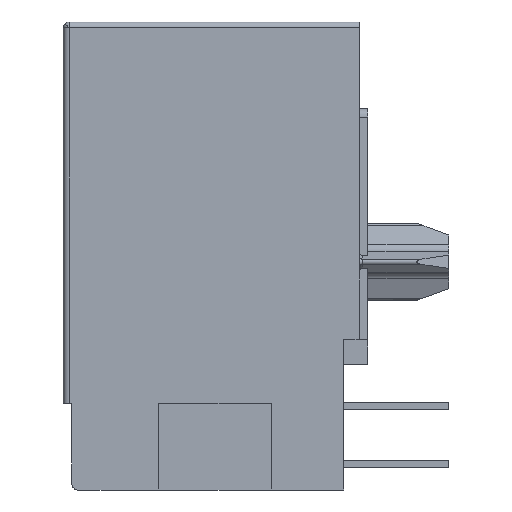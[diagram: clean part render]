
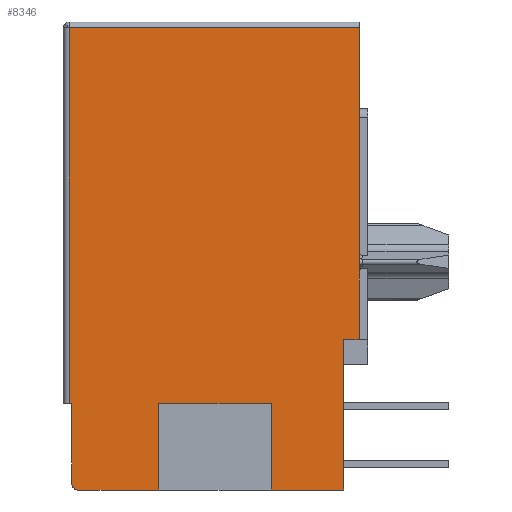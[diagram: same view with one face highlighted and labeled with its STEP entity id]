
A CAD part, left-side view. The second image highlights one B-rep face of the part: STEP entity #8346.
In plain terms, the highlighted planar face has unit normal (-1, 0, 0).
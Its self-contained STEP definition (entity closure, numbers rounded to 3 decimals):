
#2165 = CARTESIAN_POINT ( 'NONE',  ( -7.556, 0.381, -10.541 ) ) ;
#2597 = CARTESIAN_POINT ( 'NONE',  ( -7.556, 0.381, -13.97 ) ) ;
#2598 = DIRECTION ( 'NONE',  ( 0., 0., -1. ) ) ;
#2599 = VECTOR ( 'NONE', #2598, 1000. ) ;
#2600 = CARTESIAN_POINT ( 'NONE',  ( -7.556, 0.381, 0. ) ) ;
#2601 = LINE ( 'NONE', #2600, #2599 ) ;
#2623 = CARTESIAN_POINT ( 'NONE',  ( -7.556, 1.067, -13.97 ) ) ;
#2627 = CARTESIAN_POINT ( 'NONE',  ( -7.556, 13.005, -20.32 ) ) ;
#2628 = DIRECTION ( 'NONE',  ( 0., 0., 1. ) ) ;
#2629 = DIRECTION ( 'NONE',  ( 1., 0., 0. ) ) ;
#2630 = CARTESIAN_POINT ( 'NONE',  ( -7.556, 12.751, -20.32 ) ) ;
#2631 = AXIS2_PLACEMENT_3D ( 'NONE', #2630, #2629, #2628 ) ;
#2632 = CIRCLE ( 'NONE', #2631, 0.254 ) ;
#2634 = CARTESIAN_POINT ( 'NONE',  ( -7.556, 12.751, -20.574 ) ) ;
#2668 = CARTESIAN_POINT ( 'NONE',  ( -7.556, 0.381, -0.254 ) ) ;
#2669 = DIRECTION ( 'NONE',  ( 0., -1., 0. ) ) ;
#2670 = VECTOR ( 'NONE', #2669, 1000. ) ;
#2671 = CARTESIAN_POINT ( 'NONE',  ( -7.556, 7.036, -0.254 ) ) ;
#2675 = LINE ( 'NONE', #2671, #2670 ) ;
#2686 = CARTESIAN_POINT ( 'NONE',  ( -7.556, 4.242, -16.764 ) ) ;
#2687 = DIRECTION ( 'NONE',  ( 0., 0., 1. ) ) ;
#2688 = VECTOR ( 'NONE', #2687, 1000. ) ;
#2689 = CARTESIAN_POINT ( 'NONE',  ( -7.556, 4.242, 0. ) ) ;
#2690 = LINE ( 'NONE', #2689, #2688 ) ;
#2691 = CARTESIAN_POINT ( 'NONE',  ( -7.556, 4.242, -20.574 ) ) ;
#2700 = CARTESIAN_POINT ( 'NONE',  ( -7.556, 9.195, -20.574 ) ) ;
#2701 = DIRECTION ( 'NONE',  ( 0., 0., -1. ) ) ;
#2702 = VECTOR ( 'NONE', #2701, 1000. ) ;
#2703 = CARTESIAN_POINT ( 'NONE',  ( -7.556, 9.195, 0. ) ) ;
#2709 = LINE ( 'NONE', #2703, #2702 ) ;
#2731 = DIRECTION ( 'NONE',  ( 0., 1., 0. ) ) ;
#2732 = VECTOR ( 'NONE', #2731, 1000. ) ;
#2733 = CARTESIAN_POINT ( 'NONE',  ( -7.556, 7.036, -13.97 ) ) ;
#2734 = LINE ( 'NONE', #2733, #2732 ) ;
#2735 = CARTESIAN_POINT ( 'NONE',  ( -7.556, 9.195, -16.764 ) ) ;
#2736 = DIRECTION ( 'NONE',  ( 0., 1., 0. ) ) ;
#2737 = VECTOR ( 'NONE', #2736, 1000. ) ;
#2738 = CARTESIAN_POINT ( 'NONE',  ( -7.556, 7.036, -16.764 ) ) ;
#2742 = LINE ( 'NONE', #2738, #2737 ) ;
#2912 = DIRECTION ( 'NONE',  ( 0., 0., -1. ) ) ;
#2913 = VECTOR ( 'NONE', #2912, 1000. ) ;
#2914 = CARTESIAN_POINT ( 'NONE',  ( -7.556, 0.381, 0. ) ) ;
#2915 = LINE ( 'NONE', #2914, #2913 ) ;
#3035 = LINE ( 'NONE', #3094, #3093 ) ;
#3065 = FACE_OUTER_BOUND ( 'NONE', #8347, .T. ) ;
#3070 = CARTESIAN_POINT ( 'NONE',  ( -7.556, 13.005, -16.764 ) ) ;
#3071 = DIRECTION ( 'NONE',  ( 0., 0., 1. ) ) ;
#3072 = VECTOR ( 'NONE', #3071, 1000. ) ;
#3073 = CARTESIAN_POINT ( 'NONE',  ( -7.556, 13.005, 0. ) ) ;
#3077 = LINE ( 'NONE', #3073, #3072 ) ;
#3091 = CARTESIAN_POINT ( 'NONE',  ( -7.556, 1.067, -20.574 ) ) ;
#3092 = DIRECTION ( 'NONE',  ( 0., 0., -1. ) ) ;
#3093 = VECTOR ( 'NONE', #3092, 1000. ) ;
#3094 = CARTESIAN_POINT ( 'NONE',  ( -7.556, 1.067, 0. ) ) ;
#3095 = DIRECTION ( 'NONE',  ( 0., 1., 0. ) ) ;
#3096 = VECTOR ( 'NONE', #3095, 1000. ) ;
#3097 = CARTESIAN_POINT ( 'NONE',  ( -7.556, 7.036, -20.574 ) ) ;
#3098 = LINE ( 'NONE', #3097, #3096 ) ;
#3111 = DIRECTION ( 'NONE',  ( 0., 1., 0. ) ) ;
#3112 = VECTOR ( 'NONE', #3111, 1000. ) ;
#3113 = CARTESIAN_POINT ( 'NONE',  ( -7.556, 7.036, -20.574 ) ) ;
#3114 = LINE ( 'NONE', #3113, #3112 ) ;
#3115 = DIRECTION ( 'NONE',  ( 0., 1., 0. ) ) ;
#3116 = VECTOR ( 'NONE', #3115, 1000. ) ;
#3117 = CARTESIAN_POINT ( 'NONE',  ( -7.556, 13.005, -16.764 ) ) ;
#3118 = LINE ( 'NONE', #3117, #3116 ) ;
#3119 = CARTESIAN_POINT ( 'NONE',  ( -7.556, 13.132, -16.764 ) ) ;
#3120 = DIRECTION ( 'NONE',  ( 0., 0., 1. ) ) ;
#3121 = VECTOR ( 'NONE', #3120, 1000. ) ;
#3122 = CARTESIAN_POINT ( 'NONE',  ( -7.556, 13.132, 0.049 ) ) ;
#3123 = DIRECTION ( 'NONE',  ( 0., 0., -1. ) ) ;
#3124 = DIRECTION ( 'NONE',  ( 1., 0., 0. ) ) ;
#3125 = CARTESIAN_POINT ( 'NONE',  ( -7.556, 7.036, 0. ) ) ;
#3126 = AXIS2_PLACEMENT_3D ( 'NONE', #3125, #3124, #3123 ) ;
#3127 = PLANE ( 'NONE',  #3126 ) ;
#3128 = LINE ( 'NONE', #3122, #3121 ) ;
#3874 = CARTESIAN_POINT ( 'NONE',  ( -7.556, 13.132, -0.254 ) ) ;
#7804 = VERTEX_POINT ( 'NONE', #2165 ) ;
#7955 = VERTEX_POINT ( 'NONE', #2623 ) ;
#7968 = EDGE_CURVE ( 'NONE', #7804, #7969, #2601, .T. ) ;
#7969 = VERTEX_POINT ( 'NONE', #2597 ) ;
#7982 = VERTEX_POINT ( 'NONE', #2634 ) ;
#7985 = EDGE_CURVE ( 'NONE', #7982, #7986, #2632, .T. ) ;
#7986 = VERTEX_POINT ( 'NONE', #2627 ) ;
#7996 = EDGE_CURVE ( 'NONE', #8843, #7997, #2675, .T. ) ;
#7997 = VERTEX_POINT ( 'NONE', #2668 ) ;
#8015 = EDGE_CURVE ( 'NONE', #8032, #8016, #2709, .T. ) ;
#8016 = VERTEX_POINT ( 'NONE', #2700 ) ;
#8021 = VERTEX_POINT ( 'NONE', #2691 ) ;
#8023 = EDGE_CURVE ( 'NONE', #8021, #8024, #2690, .T. ) ;
#8024 = VERTEX_POINT ( 'NONE', #2686 ) ;
#8031 = EDGE_CURVE ( 'NONE', #8024, #8032, #2742, .T. ) ;
#8032 = VERTEX_POINT ( 'NONE', #2735 ) ;
#8036 = EDGE_CURVE ( 'NONE', #7969, #7955, #2734, .T. ) ;
#8168 = EDGE_CURVE ( 'NONE', #7997, #7804, #2915, .T. ) ;
#8320 = EDGE_CURVE ( 'NONE', #7955, #8321, #3035, .T. ) ;
#8321 = VERTEX_POINT ( 'NONE', #3091 ) ;
#8331 = ORIENTED_EDGE ( 'NONE', *, *, #7985, .F. ) ;
#8332 = ORIENTED_EDGE ( 'NONE', *, *, #8369, .F. ) ;
#8333 = ORIENTED_EDGE ( 'NONE', *, *, #8015, .F. ) ;
#8334 = ORIENTED_EDGE ( 'NONE', *, *, #8031, .F. ) ;
#8335 = ORIENTED_EDGE ( 'NONE', *, *, #8023, .F. ) ;
#8336 = ORIENTED_EDGE ( 'NONE', *, *, #8356, .F. ) ;
#8337 = ORIENTED_EDGE ( 'NONE', *, *, #8320, .F. ) ;
#8338 = ORIENTED_EDGE ( 'NONE', *, *, #8036, .F. ) ;
#8339 = ORIENTED_EDGE ( 'NONE', *, *, #7968, .F. ) ;
#8340 = ORIENTED_EDGE ( 'NONE', *, *, #8168, .F. ) ;
#8341 = ORIENTED_EDGE ( 'NONE', *, *, #7996, .F. ) ;
#8342 = EDGE_CURVE ( 'NONE', #7986, #8343, #3077, .T. ) ;
#8343 = VERTEX_POINT ( 'NONE', #3070 ) ;
#8346 = ADVANCED_FACE ( 'NONE', ( #3065 ), #3127, .F. ) ;
#8347 = EDGE_LOOP ( 'NONE', ( #8348, #8351, #8353, #8331, #8332, #8333, #8334, #8335, #8336, #8337, #8338, #8339, #8340, #8341 ) ) ;
#8348 = ORIENTED_EDGE ( 'NONE', *, *, #8349, .F. ) ;
#8349 = EDGE_CURVE ( 'NONE', #8350, #8843, #3128, .T. ) ;
#8350 = VERTEX_POINT ( 'NONE', #3119 ) ;
#8351 = ORIENTED_EDGE ( 'NONE', *, *, #8352, .F. ) ;
#8352 = EDGE_CURVE ( 'NONE', #8343, #8350, #3118, .T. ) ;
#8353 = ORIENTED_EDGE ( 'NONE', *, *, #8342, .F. ) ;
#8356 = EDGE_CURVE ( 'NONE', #8321, #8021, #3114, .T. ) ;
#8369 = EDGE_CURVE ( 'NONE', #8016, #7982, #3098, .T. ) ;
#8843 = VERTEX_POINT ( 'NONE', #3874 ) ;
